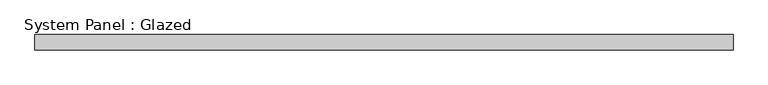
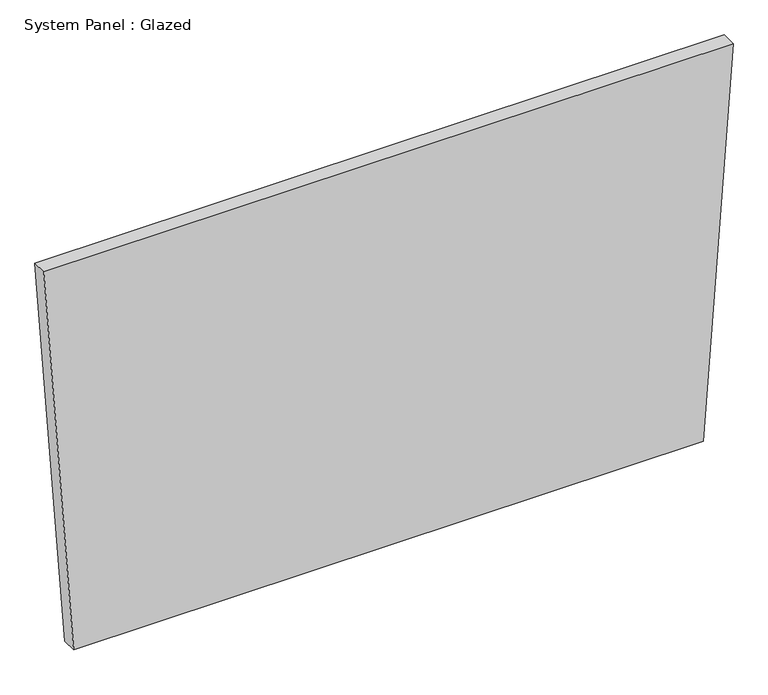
"""IFC4 building model written with IfcOpenShell, lengths in millimetres: plate geometry, System Panel : Glazed."""

from ifc_helpers import new_model, si_unit, frame, origin, place, context, project, spatial, polyline, outline, extrude, source, transform, mapped, element, save


def system_panel_glazed_68762a55(model_context):
    return source(origin(), model_context, "Body", "SweptSolid", [
        extrude(outline(polyline([(0.0, -525.7713894), (0.0, 525.7711939), (684.8826554, 575.6761602), (684.8799732, -575.6761602), (0.0, -525.7713894)])), frame((0.0, 19.05, 0.0), z_axis=(0.0, 1.0, 0.0), x_axis=(0.0, 0.0, 1.0)), (0.0, 0.0, 1.0), 25.4),
    ])


if __name__ == "__main__":
    model = new_model("IFC4")
    model_context = context("Model", 3, world=origin())
    ifc_project = project(units=[si_unit("LENGTHUNIT", "METRE", prefix="MILLI")], contexts=[model_context])
    site = spatial("IfcSite", under=ifc_project)
    building = spatial("IfcBuilding", under=site)
    placement = place(None, origin())
    system_panel_glazed_shape = system_panel_glazed_68762a55(model_context)
    element("IfcPlate", 1, ObjectType="System Panel : Glazed", at=placement, inside=building, context=model_context, shape_type="MappedRepresentation", body=[
        mapped(system_panel_glazed_shape, transform((0.0, 0.0, 0.0), x_axis=(1.0, 0.0, 0.0), y_axis=(0.0, 1.0, 0.0), z_axis=(0.0, 0.0, 1.0))),
    ])
    save(model, "model.ifc")
